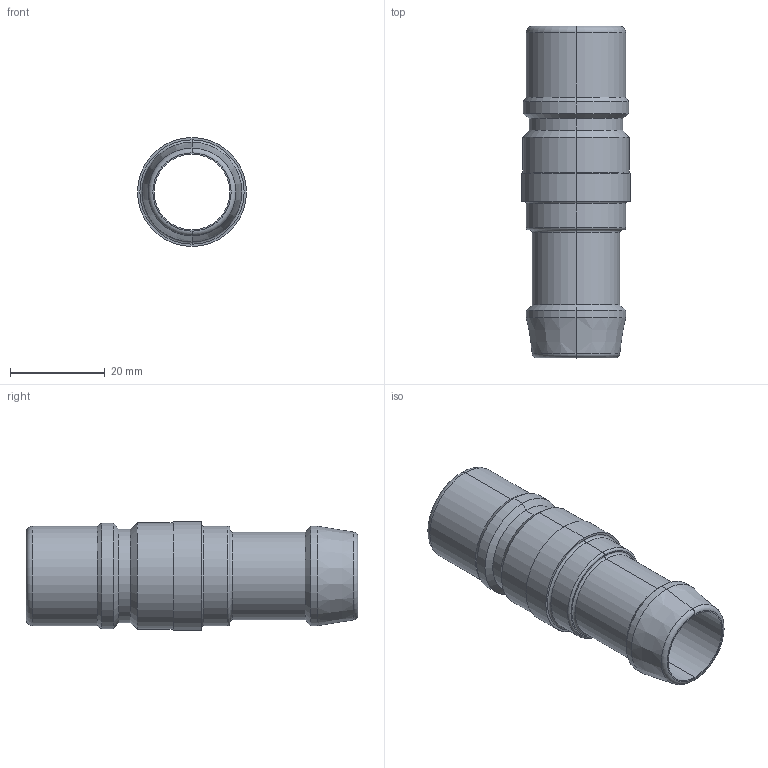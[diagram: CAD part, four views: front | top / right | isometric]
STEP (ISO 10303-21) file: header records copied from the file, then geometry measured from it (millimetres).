
FILE_DESCRIPTION (( 'STEP AP203' ), '1' );
FILE_NAME ('101-16-HU-19.STEP', '2021-10-21T15:15:41', ( '' ), ( '' ), 'SwSTEP 2.0', 'SolidWorks 2018', '' );
FILE_SCHEMA (( 'CONFIG_CONTROL_DESIGN' ));
Length unit declared in the file: millimetre
Products named in the file (1): 101-16-HU-19
Bounding box: 23 x 70 x 23 mm (x, y, z)
Volume: 9296.7 mm3; surface area: 8444 mm2
Topology: 1 solids, 1 shells, 44 faces, 88 edges, 48 vertices
Faces by surface type: cylinder 18, cone 12, torus 10, plane 4
Entity records: 1215 total; most frequent: DIRECTION 236, CARTESIAN_POINT 181, ORIENTED_EDGE 176, AXIS2_PLACEMENT_3D 103, EDGE_CURVE 88, CIRCLE 58, EDGE_LOOP 48, VERTEX_POINT 48
